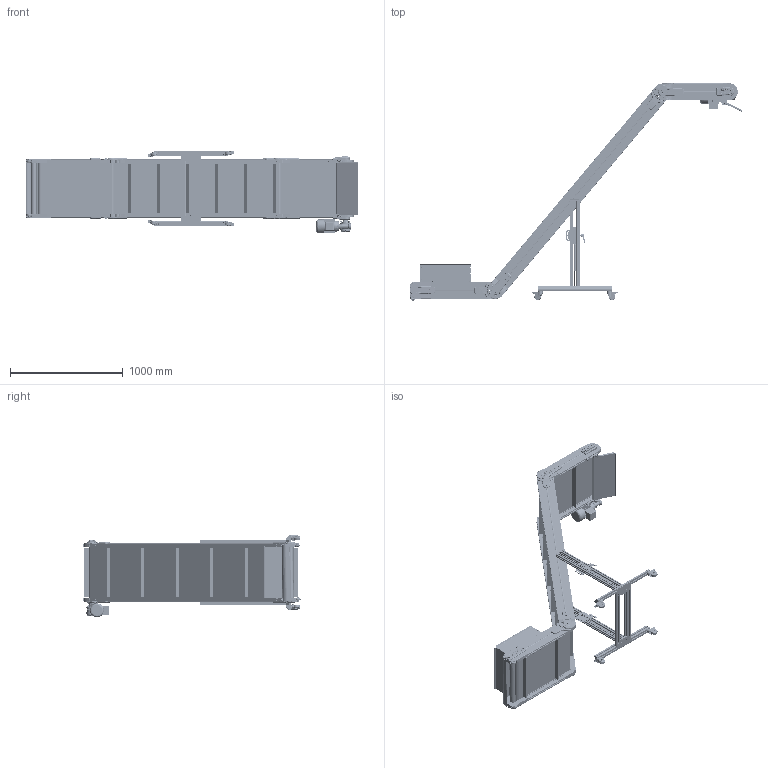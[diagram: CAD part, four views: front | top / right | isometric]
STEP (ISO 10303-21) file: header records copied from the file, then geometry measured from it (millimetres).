
FILE_DESCRIPTION (( 'STEP AP203' ), '1' );
FILE_NAME ('NASTRO_STAMPAGGIO_PLASTICA.step', '2026-04-28T10:25:05', ( 'Utente Windows' ), ( '' ), 'SwSTEP 2.0', 'SolidWorks 2024', '' );
FILE_SCHEMA (( 'CONFIG_CONTROL_DESIGN' ));
Length unit declared in the file: millimetre
Products named in the file (98): 084.808.012; 084.831.020.500; 084.831.014; 084.831.003; 084.831.018.500; NASTRO_STAMPAGGIO_PLASTICA; 06KS; VITI TE UNI 5739_M6x16 UNI 5739; 084.831.069; 084.831.027; 084.831.019.500; 084.831.045_Default<A macchina>; 084.831.024; TELAIO_Z_Default<A macchina>; 084.802.062; CUSCINETTI A SFERE_6001-2RS; 084.302.016; RONDELLE UNI 6592_10.5x21 UNI 6592; VITI TESTA BOMBATA ISO 730 INOX_M5x10 ISO 7380 INOX; 084.831.001_Default<A macchina>; 084.831.056; 084.831.015; 013.100.050; VITI TE UNI 5739_M6x100 UNI 5739; VITI TE UNI 5739_M8x35 UNI 5739; VITI TESTA BOMBATA ISO 730_1016UNI7380; VITI TESTA BOMBATA ISO 730_0825UNI7380; 084.302.038_084.302.004; 084.803.018; 084.831.008; 084.404.003; 0412TRSEA2; RIVM8ESA; 084.831.044; RONDELLE UNI 6592_8.4x17 UNI 6592; VITI TE UNI 5739_M6x120 UNI5739; 084.831.013; 084.831.010_Default<A macchina>; 084.831.016; 084.527.014 - STELO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
Assembly tree (246 placements, depth 4):
  NASTRO_STAMPAGGIO_PLASTICA
    TAPPETO_Z
    TELAIO_Z_Default<A macchina>
    084.831.KD.44.450_SX
      084.831.004  x2
      084.831.020.500
      084.831.017  x2
      084.802.071
      084.301.000 VITI ALUSIC_084.301.003
      084.802.034_084.802.034  x2
      084.802.061
      VITI TE UNI 5739_M6x16 UNI 5739  x5
      CHIAVETTE_A 6x6x60 UNI 6604-69
      RONDELLE FASCIA LARGA UNI 6593_6.4x24 UNI 6593
      084.808.012
      RONDELLE UNI 6592_8.4x17 UNI 6592
      084.802.062
      084.803.018
      0412TRSEA2  x10
      VITI TCEI UNI 5931_M5x12 UNI 5931  x4
      084.302.038_084.302.004  x2
      VITI TE UNI 5739_M8x35 UNI 5739
    084.831.KI.450
      084.831.001_Default<A macchina>  x2
      084.831.024  x2
      361102 serie 36  x2
      VITI TE UNI 5739_M6x100 UNI 5739
      RONDELLE UNI 6592_6.4x12.5 UNI 6592  x2
      VITI TE UNI 5739_M6x120 UNI5739
      084.301.000 VITI ALUSIC_084.301.003  x2
      084.831.044
      084.831.040.450
      084.831.023  x2
      084.831.018.500
      0412TRSEA2  x12
    084.831.KA_450_B  x2
      084.831.003
      084.302.016
      084.301.000 VITI ALUSIC_084.301.003
      084.831.021
      084.831.009
      084.831.014
      084.831.016
      084.831.011
      084.831.005
        084.831.005_L
        CUSCINETTI A SFERE_6001-2RS
      0412TRSEA2
      12UNI7435
    084.831.KA.450_A  x2
      084.831.002
      084.302.016
      084.831.019.500
      084.301.000 VITI ALUSIC_084.301.003
      RONDELLE FASCIA LARGA UNI 6593_8.4x24 UNI 6593
      084.831.005
        084.831.005_L
        CUSCINETTI A SFERE_6001-2RS
      084.831.021
      084.831.010_Default<A macchina>
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Bounding box: 2944.22 x 1925.97 x 732.3 mm (x, y, z)
Volume: 30266679.5 mm3; surface area: 24888321.4 mm2
Topology: 412 solids, 421 shells, 35477 faces, 93717 edges, 59909 vertices
Faces by surface type: plane 16465, cylinder 9596, bspline 3921, cone 3574, torus 1497, sphere 424
Entity records: 585745 total; most frequent: CARTESIAN_POINT 180604, ORIENTED_EDGE 86846, DIRECTION 75968, EDGE_CURVE 43423, VERTEX_POINT 27986, AXIS2_PLACEMENT_3D 25902, VECTOR 24164, LINE 24164
